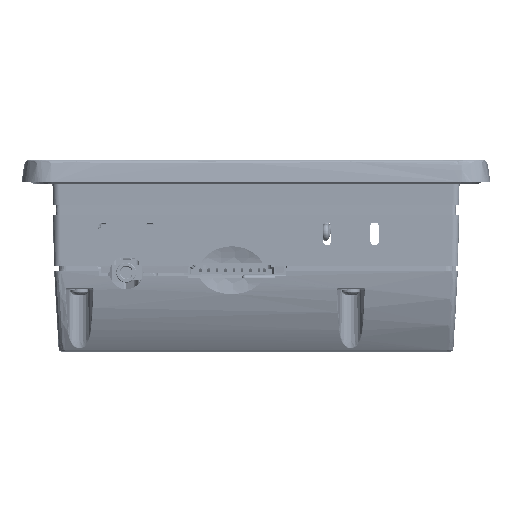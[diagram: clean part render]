
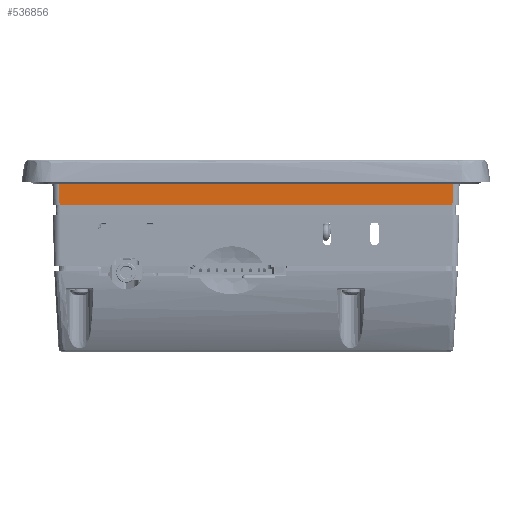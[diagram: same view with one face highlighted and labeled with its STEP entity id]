
A CAD part, left-side view. The second image highlights one B-rep face of the part: STEP entity #536856.
In plain terms, the highlighted planar face has unit normal (-1, 0, -0.018) as drawn and (-1, -0.017, 0) by its records, which use the part's own axes.
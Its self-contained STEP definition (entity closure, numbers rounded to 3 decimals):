
#5820 = EDGE_CURVE ( 'NONE', #454350, #610339, #273303, .T. ) ;
#5881 = LINE ( 'NONE', #68274, #397912 ) ;
#20845 = AXIS2_PLACEMENT_3D ( 'NONE', #571018, #418977, #112543 ) ;
#30959 = EDGE_LOOP ( 'NONE', ( #422734, #166489, #230716, #557987 ) ) ;
#61224 = PLANE ( 'NONE',  #20845 ) ;
#68274 = CARTESIAN_POINT ( 'NONE',  ( -88.674, -1.219, -57.884 ) ) ;
#76980 = CARTESIAN_POINT ( 'NONE',  ( -88.66, -1.991, 59.811 ) ) ;
#112543 = DIRECTION ( 'NONE',  ( 0.017, -1., 0. ) ) ;
#119609 = DIRECTION ( 'NONE',  ( 0.017, -1., 0.017 ) ) ;
#166489 = ORIENTED_EDGE ( 'NONE', *, *, #574067, .T. ) ;
#230716 = ORIENTED_EDGE ( 'NONE', *, *, #5820, .T. ) ;
#273303 = LINE ( 'NONE', #293225, #538554 ) ;
#293225 = CARTESIAN_POINT ( 'NONE',  ( -88.637, -3.343, 59.787 ) ) ;
#344715 = DIRECTION ( 'NONE',  ( -0.017, 1., 0.017 ) ) ;
#345571 = VERTEX_POINT ( 'NONE', #608793 ) ;
#370038 = CARTESIAN_POINT ( 'NONE',  ( -88.551, -8.254, -57.761 ) ) ;
#371819 = CARTESIAN_POINT ( 'NONE',  ( -88.551, -8.254, -59.883 ) ) ;
#384646 = LINE ( 'NONE', #494838, #624595 ) ;
#395486 = EDGE_CURVE ( 'NONE', #345571, #397248, #5881, .T. ) ;
#397248 = VERTEX_POINT ( 'NONE', #370038 ) ;
#397912 = VECTOR ( 'NONE', #119609, 1000. ) ;
#406035 = LINE ( 'NONE', #371819, #662192 ) ;
#418977 = DIRECTION ( 'NONE',  ( -1., -0.017, 0. ) ) ;
#422734 = ORIENTED_EDGE ( 'NONE', *, *, #395486, .T. ) ;
#425429 = DIRECTION ( 'NONE',  ( 0., 0., 1. ) ) ;
#454350 = VERTEX_POINT ( 'NONE', #510462 ) ;
#494838 = CARTESIAN_POINT ( 'NONE',  ( -88.66, -1.991, -57.883 ) ) ;
#510462 = CARTESIAN_POINT ( 'NONE',  ( -88.551, -8.254, 59.701 ) ) ;
#536856 = ADVANCED_FACE ( 'NONE', ( #574585 ), #61224, .T. ) ;
#538554 = VECTOR ( 'NONE', #344715, 1000. ) ;
#552237 = EDGE_CURVE ( 'NONE', #610339, #345571, #384646, .T. ) ;
#557987 = ORIENTED_EDGE ( 'NONE', *, *, #552237, .T. ) ;
#571018 = CARTESIAN_POINT ( 'NONE',  ( -88.673, -1.254, -59.883 ) ) ;
#574067 = EDGE_CURVE ( 'NONE', #397248, #454350, #406035, .T. ) ;
#574585 = FACE_OUTER_BOUND ( 'NONE', #30959, .T. ) ;
#608793 = CARTESIAN_POINT ( 'NONE',  ( -88.66, -1.991, -57.871 ) ) ;
#610339 = VERTEX_POINT ( 'NONE', #76980 ) ;
#624595 = VECTOR ( 'NONE', #649269, 1000. ) ;
#649269 = DIRECTION ( 'NONE',  ( 0., 0., -1. ) ) ;
#662192 = VECTOR ( 'NONE', #425429, 1000. ) ;
